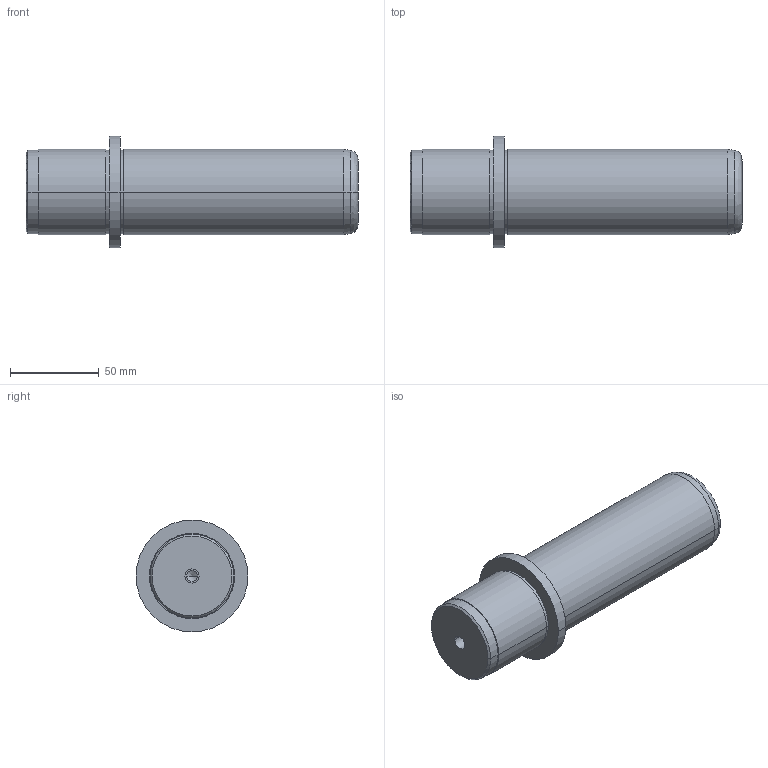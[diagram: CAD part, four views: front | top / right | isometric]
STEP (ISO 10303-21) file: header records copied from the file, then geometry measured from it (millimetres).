
FILE_DESCRIPTION( ( 'STEP AP203' ), '1' );
FILE_NAME( 'D:/Delta 3 D/D00/D00 - 48x140x47.step', '2003-01-02T07:16:27', ( ' ' ), ( ' ' ), 'XStep 1.0', ' ', ' ' );
FILE_SCHEMA( ( 'CONFIG_CONTROL_DESIGN' ) );
Length unit declared in the file: metre
Products named in the file (1): 1
Bounding box: 187 x 63 x 63 mm (x, y, z)
Volume: 341801 mm3; surface area: 35671.1 mm2
Topology: 1 solids, 1 shells, 39 faces, 78 edges, 48 vertices
Faces by surface type: revolution 28, bspline 11
Entity records: 1137 total; most frequent: CARTESIAN_POINT 277, DIRECTION 154, ORIENTED_EDGE 152, EDGE_CURVE 76, AXIS2_PLACEMENT_3D 49, EDGE_LOOP 48, VERTEX_POINT 48, CIRCLE 48
